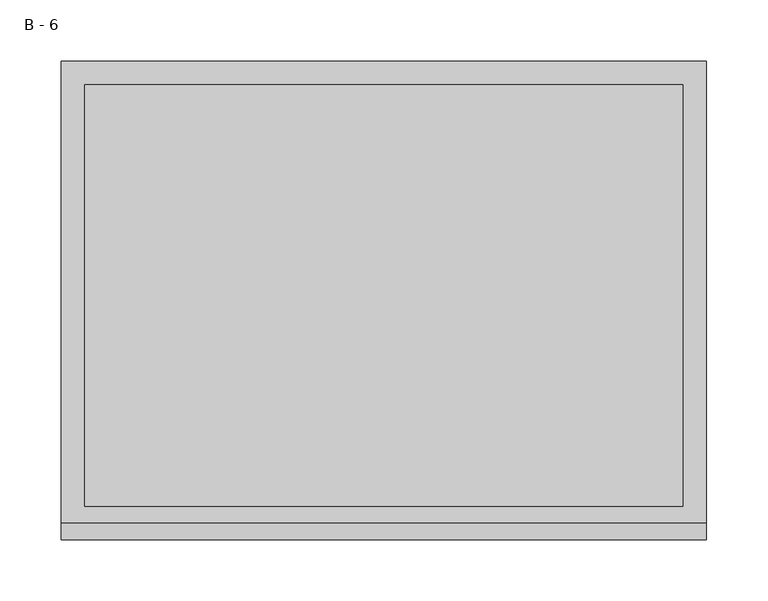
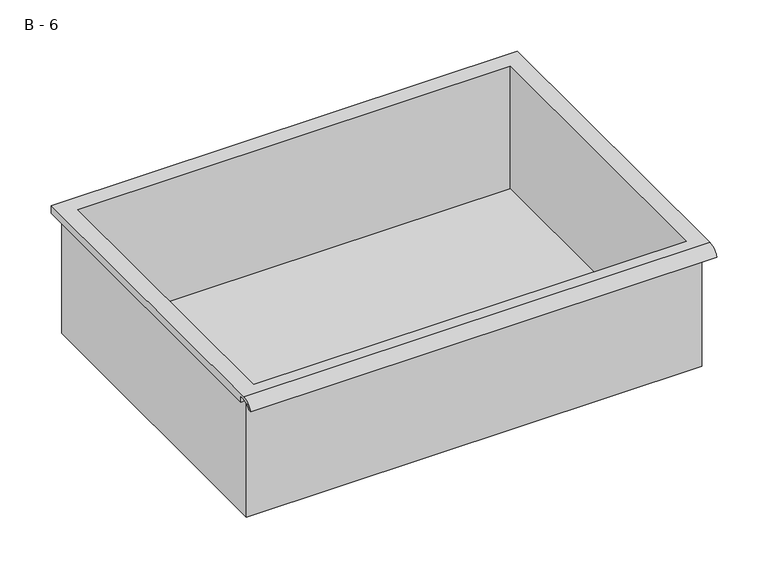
"""IFC4 building model written with IfcOpenShell, lengths in millimetres: furniture geometry, HermanMiller_CoStruc_CO207_Drawer : B - 6."""

from ifc_helpers import new_model, si_unit, frame, origin, place, context, project, spatial, polyline, circle_curve, source, transform, mapped, element, save
from ifc_brep_helpers import plane_surface, cylinder_surface, revolved_surface, advanced_brep


def b_6_e21043c8(model_context):
    return source(origin(), model_context, "Body", "AdvancedBrep", [
        advanced_brep(
        [(-257.1076517, -176.2125, 625.475), (257.2423483, -176.2125, 625.475), (257.2423483, -176.2125, 765.175), (263.5923483, -176.2125, 765.175), (263.5923483, -176.2125, 771.4821341), (-263.4576517, -176.2125, 771.4821341), (-263.4576517, -176.2125, 765.175), (-257.1076517, -176.2125, 765.175), (257.2423483, 185.7375, 625.475), (-257.1076517, 185.7375, 625.475), (-257.1076517, 185.7375, 765.175), (257.2423483, 185.7375, 765.175), (263.5923483, -181.6070544, 774.7), (263.5923483, 195.2625, 774.7), (-263.4576517, 195.2625, 774.7), (-263.4576517, -181.6070544, 774.7), (244.5423483, -168.275, 774.7), (-244.4076517, -168.275, 774.7), (-244.4076517, 176.2125, 774.7), (244.5423483, 176.2125, 774.7), (263.5923483, -195.2625, 765.175), (263.5923483, -191.8280601, 765.175), (263.5923483, -180.4714815, 771.4821341), (263.5923483, 195.2625, 765.175), (-263.4576517, 195.2625, 765.175), (-263.4576517, -180.4714815, 771.4821341), (-263.4576517, -191.8280601, 765.175), (-263.4576517, -195.2625, 765.175), (-244.4076517, -168.275, 628.5011719), (244.5423483, -168.275, 628.5011719), (244.5423483, 176.2125, 628.5011719), (-244.4076517, 176.2125, 628.5011719)],
        [
            (0, 1),
            (1, 2),
            (2, 3),
            (3, 4),
            (4, 5),
            (5, 6),
            (6, 7),
            (7, 0),
            (8, 9),
            (9, 10),
            (10, 11),
            (11, 8),
            (0, 9),
            (8, 1),
            (11, 2),
            (12, 13),
            (13, 14),
            (14, 15),
            (15, 12),
            (16, 17),
            (17, 18),
            (18, 19),
            (19, 16),
            (7, 10),
            (12, 20, circle_curve(frame((263.5923483, -181.6070544, 760.1489859), z_axis=(1.0, 0.0, 0.0), x_axis=(0.0, 1.0, 0.0)), 14.5510141)),
            (20, 21),
            (21, 22, circle_curve(frame((263.5923483, -181.6070544, 760.1489859), z_axis=(-1.0, 0.0, 0.0), x_axis=(0.0, 1.0, 0.0)), 11.3898979)),
            (22, 4),
            (3, 23),
            (23, 13),
            (14, 24),
            (24, 6),
            (5, 25),
            (25, 26, circle_curve(frame((-263.4576517, -181.6070544, 760.1489859), z_axis=(1.0, 0.0, 0.0), x_axis=(0.0, 1.0, 0.0)), 11.3898979)),
            (26, 27),
            (27, 15, circle_curve(frame((-263.4576517, -181.6070544, 760.1489859), z_axis=(-1.0, 0.0, 0.0), x_axis=(0.0, 1.0, 0.0)), 14.5510141)),
            (27, 20),
            (26, 21),
            (25, 22),
            (24, 23),
            (28, 29),
            (29, 30),
            (30, 31),
            (31, 28),
            (28, 17),
            (16, 29),
            (19, 30),
            (18, 31),
        ],
        [
            plane_surface(frame((257.2423483, -176.2125, 625.475), z_axis=(0.0, -1.0, 0.0), x_axis=(1.0, 0.0, 0.0))),
            plane_surface(frame((257.2423483, 185.7375, 625.475), z_axis=(0.0, 1.0, 0.0), x_axis=(-1.0, 0.0, 0.0))),
            plane_surface(frame((-257.1076517, -176.2125, 625.475), z_axis=(0.0, 0.0, -1.0), x_axis=(0.0, 1.0, 0.0))),
            plane_surface(frame((257.2423483, -176.2125, 625.475), z_axis=(1.0, 0.0, 0.0), x_axis=(0.0, 1.0, 0.0))),
            plane_surface(frame((257.2423483, -176.2125, 774.7), z_axis=(0.0, 0.0, 1.0), x_axis=(0.0, 1.0, 0.0))),
            plane_surface(frame((-257.1076517, -176.2125, 774.7), z_axis=(-1.0, 0.0, 0.0), x_axis=(0.0, 1.0, 0.0))),
            plane_surface(frame((263.5923483, 195.2625, 774.7), z_axis=(1.0, 0.0, 0.0), x_axis=(0.0, -1.0, 0.0))),
            plane_surface(frame((-263.4576517, 195.2625, 774.7), z_axis=(-1.0, 0.0, 0.0), x_axis=(0.0, 1.0, 0.0))),
            cylinder_surface(frame((-263.4576517, -181.6070544, 760.1489859), z_axis=(1.0, 0.0, 0.0), x_axis=(0.0, 1.0, 0.0)), 14.5510141),
            plane_surface(frame((263.5923483, -195.2625, 765.175), z_axis=(0.0, -7.29123325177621e-12, -1.0), x_axis=(-1.0, 0.0, 0.0))),
            revolved_surface(polyline([(-263.4576517, -170.21715650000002, 760.1489859), (263.59234829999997, -170.21715650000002, 760.1489859)]), (-263.4576517, -181.6070544, 760.1489859), (-1.0, 0.0, 0.0)),
            plane_surface(frame((263.5923483, -180.4714815, 771.4821341), z_axis=(0.0, -1.81156652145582e-11, -1.0), x_axis=(-1.0, 0.0, 0.0))),
            plane_surface(frame((263.5923483, -176.2125, 765.175), z_axis=(0.0, 0.0, -1.0), x_axis=(-1.0, 0.0, 0.0))),
            plane_surface(frame((263.5923483, 195.2625, 765.175), z_axis=(0.0, 1.0, 0.0), x_axis=(-1.0, 0.0, 0.0))),
            plane_surface(frame((244.5423483, -168.275, 628.5011719), z_axis=(0.0, 0.0, 1.0), x_axis=(-1.0, 0.0, 0.0))),
            plane_surface(frame((-244.4076517, -168.275, 774.7), z_axis=(0.0, 1.0, 0.0), x_axis=(0.0, 0.0, -1.0))),
            plane_surface(frame((244.5423483, -168.275, 774.7), z_axis=(-1.0, 0.0, 0.0), x_axis=(0.0, 0.0, -1.0))),
            plane_surface(frame((244.5423483, 176.2125, 774.7), z_axis=(0.0, -1.0, 0.0), x_axis=(0.0, 0.0, -1.0))),
            plane_surface(frame((-244.4076517, 176.2125, 774.7), z_axis=(1.0, 0.0, 0.0), x_axis=(0.0, 0.0, -1.0))),
        ],
        [
            (0, [[1, 2, 3, 4, 5, 6, 7, 8]]),
            (1, [[9, 10, 11, 12]]),
            (2, [[-1, 13, -9, 14]]),
            (3, [[-14, -12, 15, -2]]),
            (4, [[16, 17, 18, 19], [20, 21, 22, 23]]),
            (5, [[-13, -8, 24, -10]]),
            (6, [[-16, 25, 26, 27, 28, -4, 29, 30]]),
            (7, [[31, 32, -6, 33, 34, 35, 36, -18]]),
            (8, [[-25, -19, -36, 37]]),
            (9, [[-26, -37, -35, 38]]),
            (10, [[-27, -38, -34, 39]]),
            (11, [[-28, -39, -33, -5]]),
            (12, [[-29, -3, -15, -11, -24, -7, -32, 40]]),
            (13, [[-30, -40, -31, -17]]),
            (14, [[41, 42, 43, 44]]),
            (15, [[-41, 45, -20, 46]]),
            (16, [[-42, -46, -23, 47]]),
            (17, [[-43, -47, -22, 48]]),
            (18, [[-44, -48, -21, -45]]),
        ],
    ),
    ])


if __name__ == "__main__":
    model = new_model("IFC4")
    model_context = context("Model", 3, world=origin())
    ifc_project = project(units=[si_unit("LENGTHUNIT", "METRE", prefix="MILLI")], contexts=[model_context])
    site = spatial("IfcSite", under=ifc_project)
    building = spatial("IfcBuilding", under=site)
    placement = place(None, origin())
    b_6_shape = b_6_e21043c8(model_context)
    element("IfcFurniture", 1, ObjectType="HermanMiller_CoStruc_CO207_Drawer : B - 6", at=placement, inside=building, context=model_context, shape_type="MappedRepresentation", body=[
        mapped(b_6_shape, transform((0.0, 0.0, 0.0), x_axis=(1.0, 0.0, 0.0), y_axis=(0.0, 1.0, 0.0), z_axis=(0.0, 0.0, 1.0))),
    ])
    save(model, "model.ifc")
